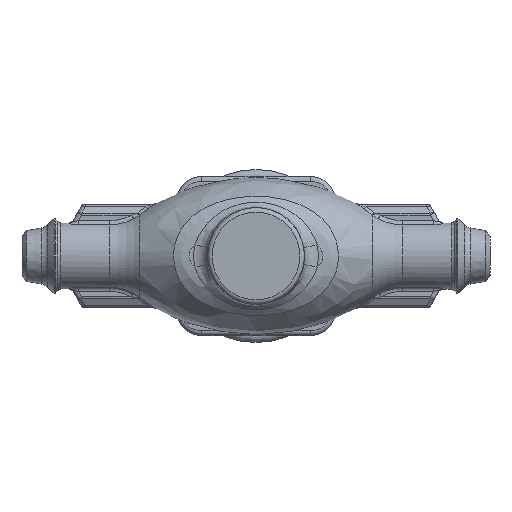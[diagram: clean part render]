
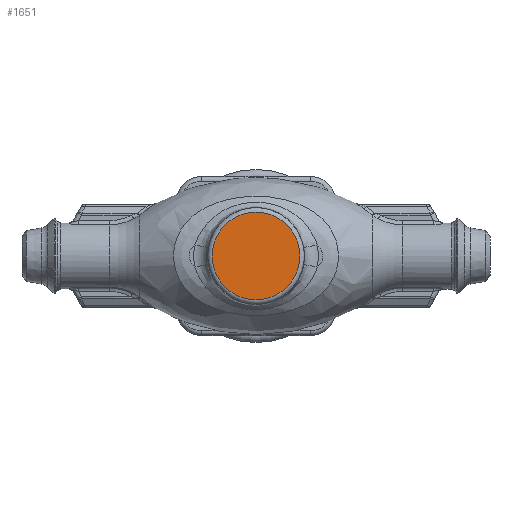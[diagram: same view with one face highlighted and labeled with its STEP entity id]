
A CAD part, front view. The second image highlights one B-rep face of the part: STEP entity #1651.
In plain terms, the highlighted planar face has unit normal (0, -1, 0).
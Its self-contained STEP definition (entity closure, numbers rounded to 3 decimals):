
#138=PLANE('',#6767);
#294=FACE_OUTER_BOUND('',#2405,.T.);
#1651=ADVANCED_FACE('',(#294),#138,.F.);
#2405=EDGE_LOOP('',(#3162));
#3162=ORIENTED_EDGE('',*,*,#5537,.T.);
#4949=VERTEX_POINT('',#10685);
#5537=EDGE_CURVE('',#4949,#4949,#6316,.T.);
#6316=CIRCLE('',#6766,19.);
#6766=AXIS2_PLACEMENT_3D('',#10684,#7709,#7710);
#6767=AXIS2_PLACEMENT_3D('',#10686,#7711,#7712);
#7709=DIRECTION('',(0.,-1.,0.));
#7710=DIRECTION('',(0.,0.,-1.));
#7711=DIRECTION('',(0.,1.,0.));
#7712=DIRECTION('',(0.,0.,-1.));
#10684=CARTESIAN_POINT('',(0.,-47.,0.));
#10685=CARTESIAN_POINT('',(0.,-47.,-19.));
#10686=CARTESIAN_POINT('',(0.,-47.,0.));
